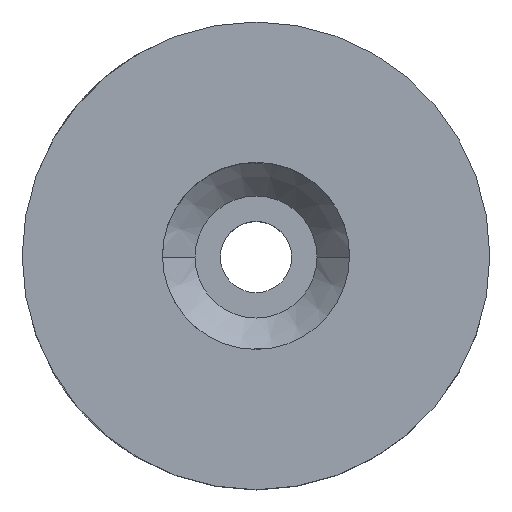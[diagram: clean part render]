
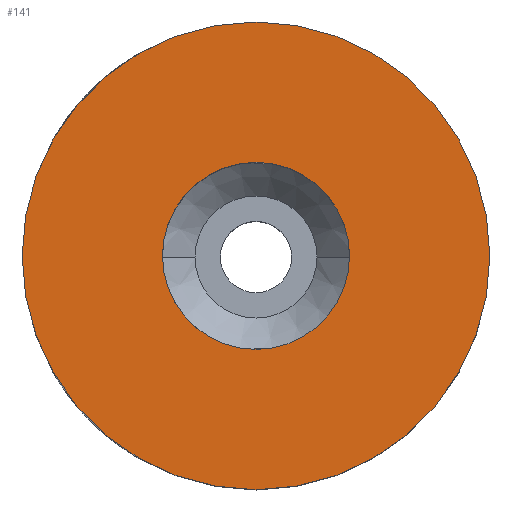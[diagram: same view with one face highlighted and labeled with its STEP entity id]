
A CAD part, top view. The second image highlights one B-rep face of the part: STEP entity #141.
In plain terms, the highlighted planar face has unit normal (0, 0, 1).
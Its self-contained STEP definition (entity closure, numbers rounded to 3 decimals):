
#110=PLANE('',#461);
#118=FACE_BOUND('',#191,.T.);
#119=FACE_BOUND('',#192,.T.);
#141=ADVANCED_FACE('',(#118,#119),#110,.T.);
#191=EDGE_LOOP('',(#273,#274));
#192=EDGE_LOOP('',(#275,#276));
#223=CIRCLE('',#457,11.5);
#224=CIRCLE('',#458,11.5);
#225=CIRCLE('',#459,4.6);
#226=CIRCLE('',#460,4.6);
#273=ORIENTED_EDGE('',*,*,#375,.F.);
#274=ORIENTED_EDGE('',*,*,#376,.F.);
#275=ORIENTED_EDGE('',*,*,#377,.T.);
#276=ORIENTED_EDGE('',*,*,#378,.T.);
#337=VERTEX_POINT('',#630);
#338=VERTEX_POINT('',#631);
#339=VERTEX_POINT('',#634);
#340=VERTEX_POINT('',#635);
#375=EDGE_CURVE('',#337,#338,#223,.T.);
#376=EDGE_CURVE('',#338,#337,#224,.T.);
#377=EDGE_CURVE('',#339,#340,#225,.T.);
#378=EDGE_CURVE('',#340,#339,#226,.T.);
#457=AXIS2_PLACEMENT_3D('',#629,#537,#538);
#458=AXIS2_PLACEMENT_3D('',#632,#539,#540);
#459=AXIS2_PLACEMENT_3D('',#633,#541,#542);
#460=AXIS2_PLACEMENT_3D('',#636,#543,#544);
#461=AXIS2_PLACEMENT_3D('',#637,#545,#546);
#537=DIRECTION('',(0.,0.,-1.));
#538=DIRECTION('',(0.,1.,0.));
#539=DIRECTION('',(0.,0.,-1.));
#540=DIRECTION('',(0.,-1.,0.));
#541=DIRECTION('',(0.,0.,-1.));
#542=DIRECTION('',(0.,-1.,0.));
#543=DIRECTION('',(0.,0.,-1.));
#544=DIRECTION('',(0.,1.,0.));
#545=DIRECTION('',(0.,0.,1.));
#546=DIRECTION('',(0.,-1.,0.));
#629=CARTESIAN_POINT('',(0.,0.,40.));
#630=CARTESIAN_POINT('',(11.5,0.,40.));
#631=CARTESIAN_POINT('',(-11.5,0.,40.));
#632=CARTESIAN_POINT('',(0.,0.,40.));
#633=CARTESIAN_POINT('',(0.,0.,40.));
#634=CARTESIAN_POINT('',(-4.6,0.,40.));
#635=CARTESIAN_POINT('',(4.6,0.,40.));
#636=CARTESIAN_POINT('',(0.,0.,40.));
#637=CARTESIAN_POINT('',(0.,0.,40.));
